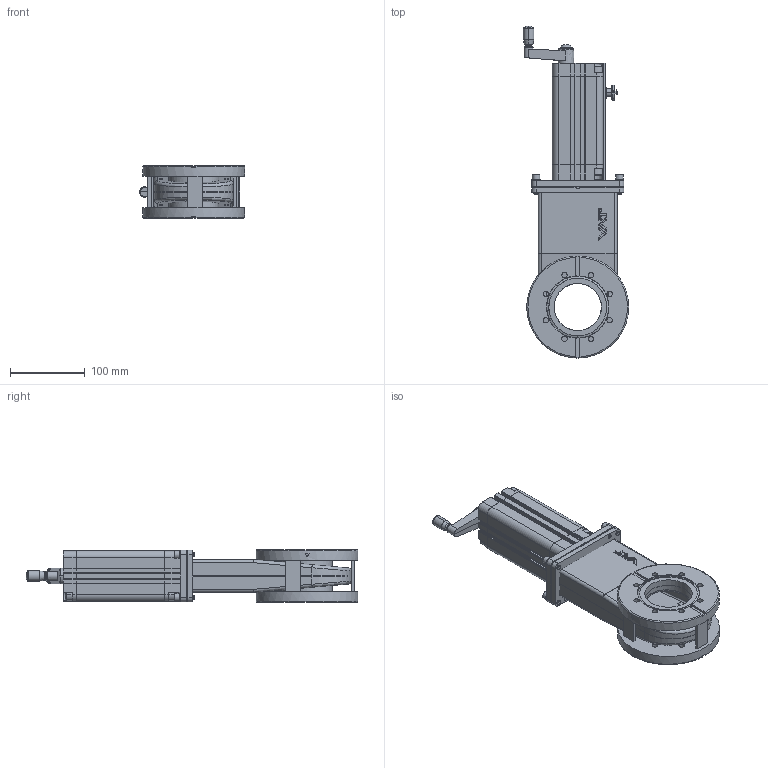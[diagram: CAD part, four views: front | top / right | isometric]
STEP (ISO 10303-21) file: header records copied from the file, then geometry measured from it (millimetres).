
FILE_DESCRIPTION(/* description */ (''),/* implementation_level */ '2;1');
FILE_NAME(/* name */ '1347488792_203',/* time_stamp */ '2009-11-11T09:36:49+01:00',/* author */ (''),/* organization */ (''),/* preprocessor_version */ 'ST-DEVELOPER v11',/* originating_system */ 'UGS - NX 5.0',/* authorisation */ '');
FILE_SCHEMA (('CONFIG_CONTROL_DESIGN'));
Length unit declared in the file: millimetre
Products named in the file (29): 255554.2; 359586.6; 306404.3; 374491.1; 251262.4; 323148.3; 323152.1; 301626.1; 342971.1; 343006.1; 261334.1; N-6092-118.1; n-6195-408; 301646.1; 260826.1; 260722.6; 332680.2; 259432.1; 260719.2; 259597.1; 261405.3; 218189; n-6134-408; 255550.3; 359599.5; 393176; 343008.1; 261335.1; 392946
Assembly tree (43 placements, depth 4):
  392946
    255550.3
    261335.1
      N-6092-118.1  x2
      261334.1
    n-6134-408  x4
    218189  x4
    343008.1
      343006.1
      342971.1  x2
      301626.1
    261405.3
    259597.1  x4
    260719.2
    259432.1
    332680.2
    260722.6
    260826.1
    301646.1
    n-6195-408
    393176
      359599.5
        359586.6  x2
        255554.2
      323152.1
      323148.3
      251262.4  x3
      374491.1  x2
      306404.3
Bounding box: 140.4 x 442.86 x 70 mm (x, y, z)
Volume: 979373.7 mm3; surface area: 396234.5 mm2
Topology: 47 solids, 47 shells, 1277 faces, 3346 edges, 2210 vertices
Faces by surface type: plane 700, cylinder 376, revolution 94, cone 63, bspline 24, sphere 12, torus 8
Full cylindrical faces by diameter (mm): 2.2 x1, 3.17 x1, 4 x2, 4.96 x4, 4.985 x1, 4.991 x3, 5 x8, 5.2 x6, 5.22 x4, 5.3 x1, 6 x8, 6.4 x4, 6.5 x10, 7.2 x16, 10 x4, 10.008 x1, 10.4 x4, 11 x6, 11.5 x4, 12 x2, 14 x3, 15 x1, 15.2 x1, 16 x1, 16.2 x1, 21.976 x1, 23 x1, 25.345 x1, 30.011 x1, 30.03 x1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
Entity records: 33983 total; most frequent: CARTESIAN_POINT 6905, DIRECTION 4841, ORIENTED_EDGE 4734, EDGE_CURVE 2367, AXIS2_PLACEMENT_3D 1686, VERTEX_POINT 1673, LINE 1417, VECTOR 1417
